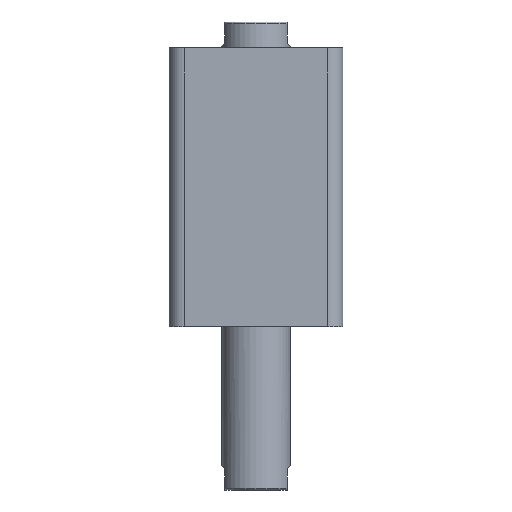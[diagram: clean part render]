
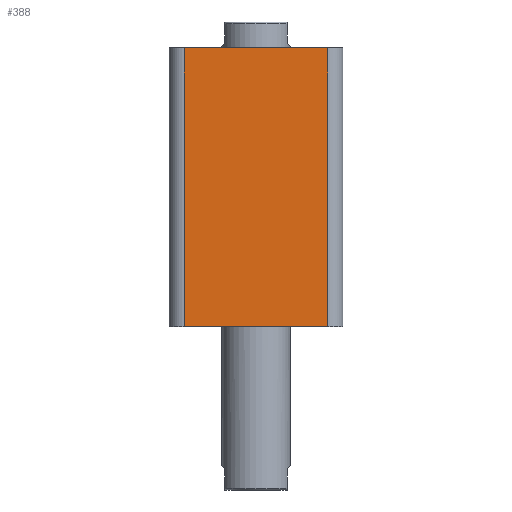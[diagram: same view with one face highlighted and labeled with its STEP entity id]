
A CAD part, front view. The second image highlights one B-rep face of the part: STEP entity #388.
In plain terms, the highlighted planar face has unit normal (0, -1, 0).
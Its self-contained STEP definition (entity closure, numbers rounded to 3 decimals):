
#57 = VERTEX_POINT ( 'NONE', #3229 ) ;
#64 = VERTEX_POINT ( 'NONE', #3226 ) ;
#103 = VERTEX_POINT ( 'NONE', #3202 ) ;
#104 = VERTEX_POINT ( 'NONE', #3197 ) ;
#388 = ADVANCED_FACE ( 'NONE', ( #573 ), #2731, .F. ) ;
#573 = FACE_OUTER_BOUND ( 'NONE', #2392, .T. ) ;
#682 = LINE ( 'NONE', #2984, #685 ) ;
#683 = LINE ( 'NONE', #2983, #687 ) ;
#685 = VECTOR ( 'NONE', #2973, 1000. ) ;
#686 = LINE ( 'NONE', #2989, #689 ) ;
#687 = VECTOR ( 'NONE', #2988, 1000. ) ;
#688 = LINE ( 'NONE', #2991, #691 ) ;
#689 = VECTOR ( 'NONE', #2990, 1000. ) ;
#691 = VECTOR ( 'NONE', #2992, 1000. ) ;
#1616 = EDGE_CURVE ( 'NONE', #103, #57, #682, .T. ) ;
#1617 = EDGE_CURVE ( 'NONE', #103, #64, #683, .T. ) ;
#1618 = EDGE_CURVE ( 'NONE', #104, #64, #686, .T. ) ;
#1619 = EDGE_CURVE ( 'NONE', #57, #104, #688, .T. ) ;
#1868 = AXIS2_PLACEMENT_3D ( 'NONE', #2729, #2734, #2735 ) ;
#2392 = EDGE_LOOP ( 'NONE', ( #2502, #2501, #2500, #2499 ) ) ;
#2499 = ORIENTED_EDGE ( 'NONE', *, *, #1616, .T. ) ;
#2500 = ORIENTED_EDGE ( 'NONE', *, *, #1617, .F. ) ;
#2501 = ORIENTED_EDGE ( 'NONE', *, *, #1618, .T. ) ;
#2502 = ORIENTED_EDGE ( 'NONE', *, *, #1619, .T. ) ;
#2729 = CARTESIAN_POINT ( 'NONE',  ( -57., -57., 183. ) ) ;
#2731 = PLANE ( 'NONE',  #1868 ) ;
#2734 = DIRECTION ( 'NONE',  ( 0., 1., 0. ) ) ;
#2735 = DIRECTION ( 'NONE',  ( 0., 0., 1. ) ) ;
#2973 = DIRECTION ( 'NONE',  ( 0., 0., -1. ) ) ;
#2983 = CARTESIAN_POINT ( 'NONE',  ( -57., -57., 183. ) ) ;
#2984 = CARTESIAN_POINT ( 'NONE',  ( -47., -57., 183. ) ) ;
#2988 = DIRECTION ( 'NONE',  ( 1., 0., 0. ) ) ;
#2989 = CARTESIAN_POINT ( 'NONE',  ( 47., -57., 183. ) ) ;
#2990 = DIRECTION ( 'NONE',  ( 0., 0., 1. ) ) ;
#2991 = CARTESIAN_POINT ( 'NONE',  ( -57., -57., 0. ) ) ;
#2992 = DIRECTION ( 'NONE',  ( 1., 0., 0. ) ) ;
#3197 = CARTESIAN_POINT ( 'NONE',  ( 47., -57., 0. ) ) ;
#3202 = CARTESIAN_POINT ( 'NONE',  ( -47., -57., 183. ) ) ;
#3226 = CARTESIAN_POINT ( 'NONE',  ( 47., -57., 183. ) ) ;
#3229 = CARTESIAN_POINT ( 'NONE',  ( -47., -57., 0. ) ) ;
